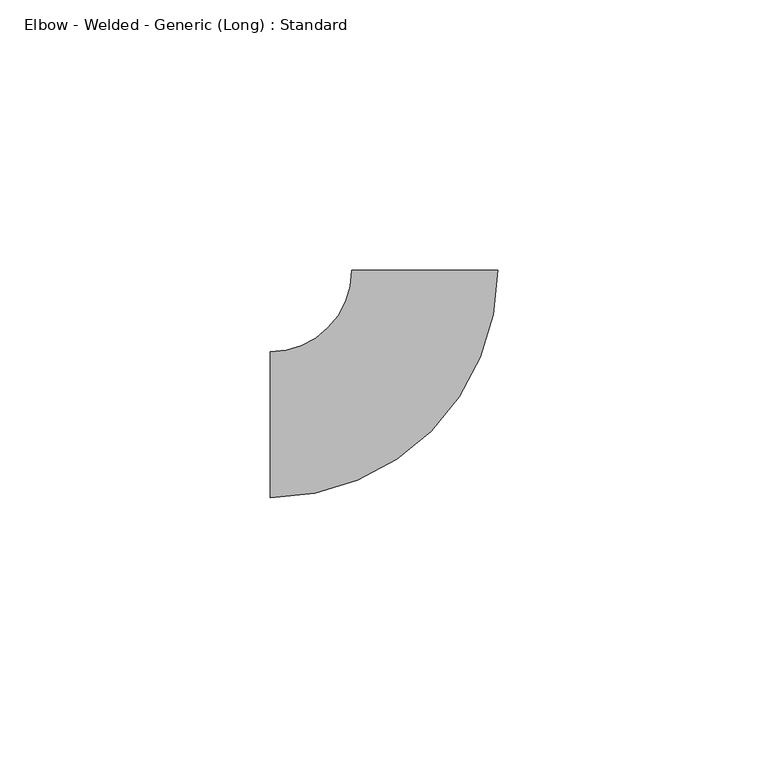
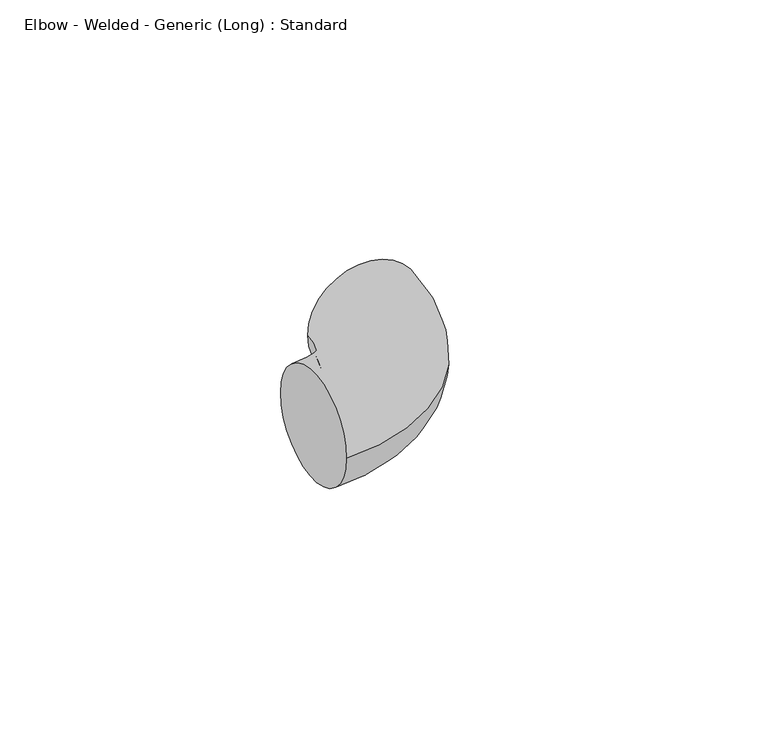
"""IFC4 building model written with IfcOpenShell, lengths in millimetres: pipe fitting geometry, Elbow - Welded - Generic (Long) : Standard."""

from ifc_helpers import new_model, si_unit, point, frame, origin, place, context, project, spatial, circle_curve, ellipse_curve, trimmed, source, transform, mapped, element, save
from ifc_brep_helpers import plane_surface, revolved_surface, advanced_brep


def elbow_welded_generic_long_standard_69fa8f4a(model_context):
    return source(origin(), model_context, "Body", "AdvancedBrep", [
        advanced_brep(
        [(-28.575, -13.49375, 0.0), (-28.575, 13.49375, 0.0), (13.4937458, 28.575002, 0.0), (-13.4937542, 28.574998, 0.0)],
        [
            (0, 1, circle_curve(frame((-28.575, 0.0, 0.0), z_axis=(-1.0, 0.0, 0.0), x_axis=(0.0, 1.0, 0.0)), 13.49375)),
            (1, 0, circle_curve(frame((-28.575, 0.0, 0.0), z_axis=(-1.0, 0.0, 0.0), x_axis=(0.0, 1.0, 0.0)), 13.49375)),
            (2, 3, circle_curve(frame((-4.2e-06, 28.575, 0.0), z_axis=(-1.4779883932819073e-07, 0.9999999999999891, 0.0), x_axis=(-0.9999999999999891, -1.4779883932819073e-07, 0.0)), 13.49375)),
            (3, 2, circle_curve(frame((-4.2e-06, 28.575, 0.0), z_axis=(-1.4779883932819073e-07, 0.9999999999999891, 0.0), x_axis=(-0.9999999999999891, -1.4779883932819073e-07, 0.0)), 13.49375)),
            (3, 1, circle_curve(frame((-28.575, 28.5749958, 0.0), z_axis=(0.0, 0.0, -1.0), x_axis=(0.0, -1.0, 0.0)), 15.0812458)),
            (0, 2, circle_curve(frame((-28.575, 28.5749958, 0.0), z_axis=(0.0, 0.0, 1.0), x_axis=(0.0, -1.0, 0.0)), 42.0687458)),
        ],
        [
            plane_surface(frame((-28.575, 0.0, 0.0), z_axis=(-1.0, 0.0, 0.0), x_axis=(0.0, 0.0, 1.0))),
            plane_surface(frame((-4.2e-06, 28.575, 0.0), z_axis=(-1.4779883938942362e-07, 0.9999999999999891, 0.0), x_axis=(0.0, 0.0, 1.0))),
            revolved_surface(trimmed(ellipse_curve(frame((-28.575, 0.0, 0.0), z_axis=(-1.0, 0.0, 0.0), x_axis=(0.0, 1.0, 0.0)), 13.49375, 13.49375), [point((-28.575, -13.49375, 0.0))], [point((-28.575, 13.49375, 0.0))], True, "CARTESIAN"), (-28.575, 28.5749958, 0.0), (0.0, 0.0, 1.0)),
            revolved_surface(trimmed(ellipse_curve(frame((-28.575, 0.0, 0.0), z_axis=(-1.0, 0.0, 0.0), x_axis=(0.0, 1.0, 0.0)), 13.49375, 13.49375), [point((-28.575, 13.49375, 0.0))], [point((-28.575, -13.49375, 0.0))], True, "CARTESIAN"), (-28.575, 28.5749958, 0.0), (0.0, 0.0, 1.0)),
        ],
        [
            (0, [[1, 2]]),
            (1, [[3, 4]]),
            (2, [[5, -1, 6, -4]]),
            (3, [[-6, -2, -5, -3]]),
        ],
    ),
    ])


if __name__ == "__main__":
    model = new_model("IFC4")
    model_context = context("Model", 3, world=origin())
    ifc_project = project(units=[si_unit("LENGTHUNIT", "METRE", prefix="MILLI")], contexts=[model_context])
    site = spatial("IfcSite", under=ifc_project)
    building = spatial("IfcBuilding", under=site)
    placement = place(None, origin())
    elbow_welded_generic_long_standard_shape = elbow_welded_generic_long_standard_69fa8f4a(model_context)
    element("IfcPipeFitting", 1, ObjectType="Elbow - Welded - Generic (Long) : Standard", at=placement, inside=building, context=model_context, shape_type="MappedRepresentation", body=[
        mapped(elbow_welded_generic_long_standard_shape, transform((0.0, 0.0, 0.0), x_axis=(1.0, 0.0, 0.0), y_axis=(0.0, 1.0, 0.0), z_axis=(0.0, 0.0, 1.0))),
    ])
    save(model, "model.ifc")
